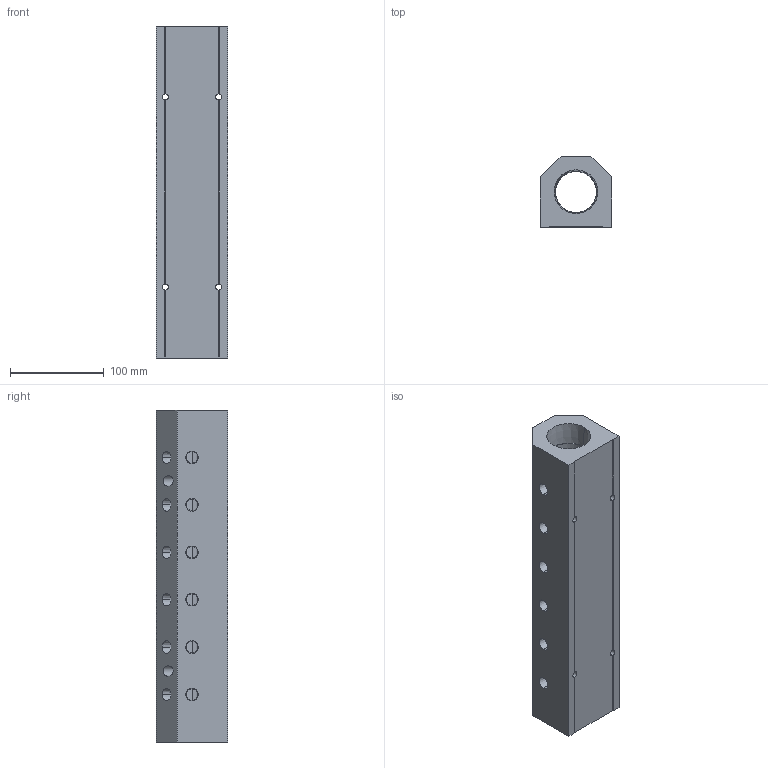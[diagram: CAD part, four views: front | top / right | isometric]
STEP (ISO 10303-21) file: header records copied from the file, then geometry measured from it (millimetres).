
FILE_DESCRIPTION (( 'STEP AP214' ), '1' );
FILE_NAME ('ALM6ABC-N4N24-355R.step', '2022-02-07T07:39:45', ( '' ), ( '' ), 'SwSTEP 2.0', 'SolidWorks 2020', '' );
FILE_SCHEMA (( 'AUTOMOTIVE_DESIGN' ));
Length unit declared in the file: millimetre
Products named in the file (1): ALM6ABC-N4N24-355R
Bounding box: 76.2 x 76.2 x 355 mm (x, y, z)
Volume: 1281519.6 mm3; surface area: 168580.7 mm2
Topology: 1 solids, 1 shells, 355 faces, 955 edges, 630 vertices
Faces by surface type: plane 226, bspline 71, cone 40, cylinder 18
Entity records: 20389 total; most frequent: CARTESIAN_POINT 8534, ORIENTED_EDGE 1910, DIRECTION 1403, EDGE_CURVE 955, VECTOR 689, LINE 689, VERTEX_POINT 630, EDGE_LOOP 429
